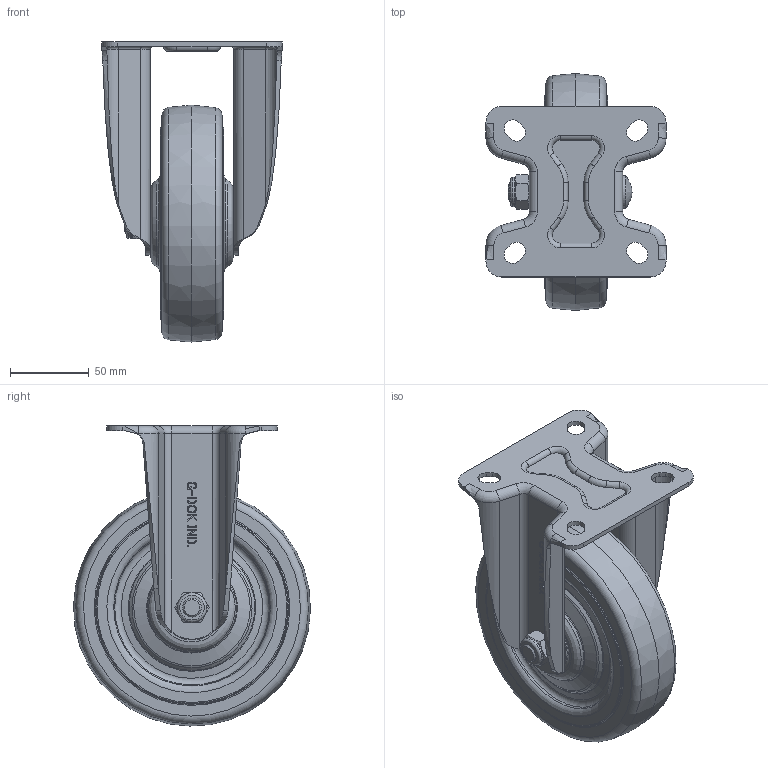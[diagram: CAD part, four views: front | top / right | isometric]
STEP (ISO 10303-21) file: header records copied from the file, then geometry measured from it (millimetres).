
FILE_DESCRIPTION(/* description */ (''),/* implementation_level */ '2;1');
FILE_NAME(/* name */ 'C:\Users\황치선\Desktop\진행도면\\X2\B514C2A4D06CD720\X0\ 홈피용 도면\1\RT1-150-ARF-DISK WHEEL1.stp',/* time_stamp */ '2016-03-26T10:39:58+09:00',/* author */ ('황치선'),/* organization */ (''),/* preprocessor_version */ 'ST-DEVELOPER v15.6',/* originating_system */ 'Autodesk Inventor 2015',/* authorisation */ '');
FILE_SCHEMA (('AUTOMOTIVE_DESIGN { 1 0 10303 214 3 1 1 }'));
Length unit declared in the file: centimetre
Products named in the file (1): RT1-150-ARF-DISK WHEEL1
Bounding box: 114 x 149.97 x 189.99 mm (x, y, z)
Volume: 393341.4 mm3; surface area: 165954.4 mm2
Topology: 1 solids, 3 shells, 565 faces, 1502 edges, 959 vertices
Faces by surface type: plane 186, torus 126, bspline 111, cylinder 96, cone 32, sphere 14
Full cylindrical faces by diameter (mm): 12 x1, 18.5 x1, 19.8 x1, 21 x1, 21.4 x4, 26 x2, 28.6 x4, 29 x2, 35 x4, 38 x2, 119 x2
Entity records: 20039 total; most frequent: CARTESIAN_POINT 6837, ORIENTED_EDGE 2688, DIRECTION 2276, EDGE_CURVE 1344, VERTEX_POINT 918, AXIS2_PLACEMENT_3D 844, EDGE_LOOP 740, LINE 588
